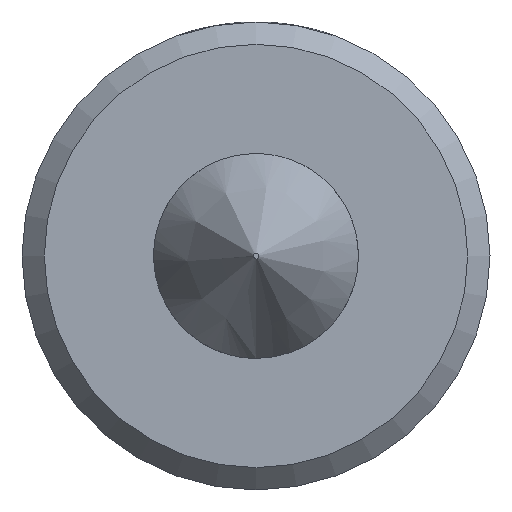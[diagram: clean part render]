
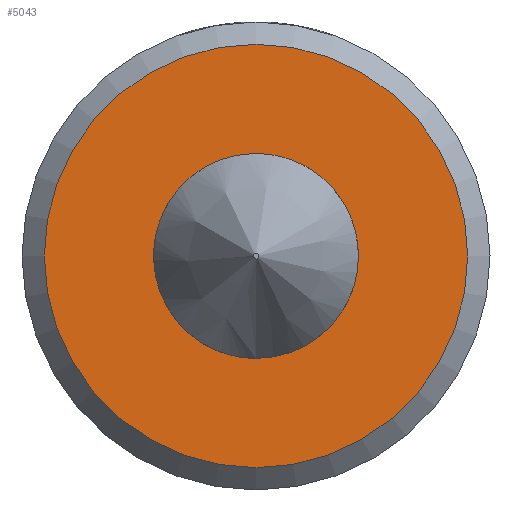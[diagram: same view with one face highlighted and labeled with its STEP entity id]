
A CAD part, left-side view. The second image highlights one B-rep face of the part: STEP entity #5043.
In plain terms, the highlighted planar face has unit normal (-1, 0, 0).
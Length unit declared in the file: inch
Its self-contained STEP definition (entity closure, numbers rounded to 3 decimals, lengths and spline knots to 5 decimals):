
#24=CIRCLE('',#5094,1.42485);
#25=CIRCLE('',#5097,0.68906);
#45=PLANE('',#5096);
#64=FACE_BOUND('',#1399,.T.);
#1105=FACE_OUTER_BOUND('',#1398,.T.);
#1398=EDGE_LOOP('',(#4697));
#1399=EDGE_LOOP('',(#4698));
#2407=VERTEX_POINT('',#12641);
#2408=VERTEX_POINT('',#12646);
#3172=EDGE_CURVE('',#2407,#2407,#24,.T.);
#3173=EDGE_CURVE('',#2408,#2408,#25,.F.);
#4697=ORIENTED_EDGE('',*,*,#3172,.F.);
#4698=ORIENTED_EDGE('',*,*,#3173,.F.);
#5043=ADVANCED_FACE('',(#1105,#64),#45,.T.);
#5094=AXIS2_PLACEMENT_3D('',#12643,#5433,#5434);
#5096=AXIS2_PLACEMENT_3D('',#12645,#5437,#5438);
#5097=AXIS2_PLACEMENT_3D('',#12647,#5439,#5440);
#5433=DIRECTION('center_axis',(1.,0.,0.));
#5434=DIRECTION('ref_axis',(0.,0.,1.));
#5437=DIRECTION('center_axis',(-1.,0.,0.));
#5438=DIRECTION('ref_axis',(0.,0.,1.));
#5439=DIRECTION('center_axis',(1.,0.,0.));
#5440=DIRECTION('ref_axis',(0.,0.,1.));
#12641=CARTESIAN_POINT('',(-9.14038,0.,-1.42485));
#12643=CARTESIAN_POINT('Origin',(-9.14038,0.,0.));
#12645=CARTESIAN_POINT('Origin',(-9.14038,0.,0.88206));
#12646=CARTESIAN_POINT('',(-9.14038,0.,-0.68906));
#12647=CARTESIAN_POINT('Origin',(-9.14038,0.,0.));
